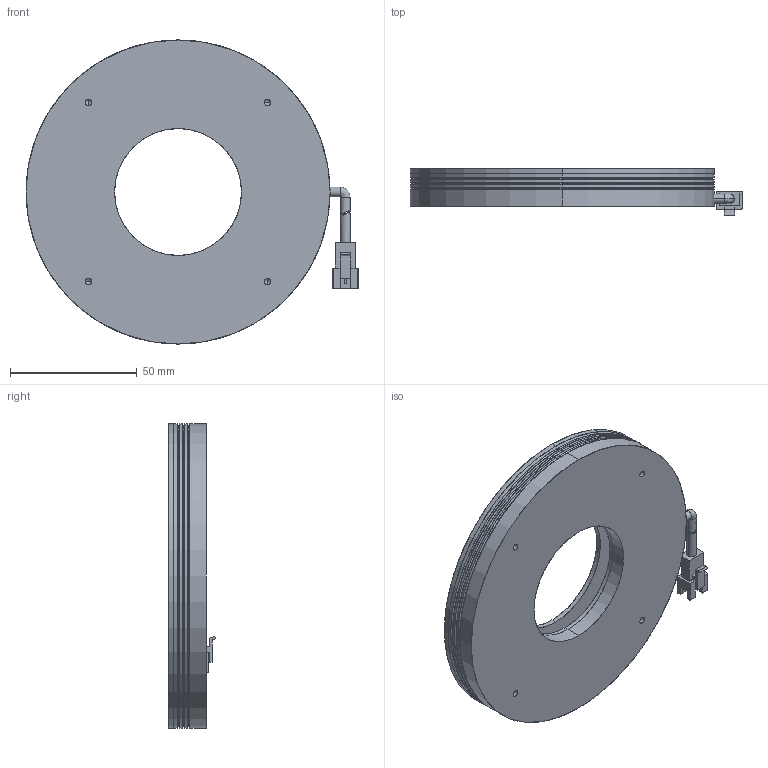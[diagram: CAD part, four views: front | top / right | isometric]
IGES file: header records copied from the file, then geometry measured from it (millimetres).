
Start section: SolidWorks IGES file using analytic representation for surfaces
Global section: file name: E:\SynologyDrive\新款图纸\标准产品\环光\环光00\R12000-50\ED\R12000-50.IGS; native system: SolidWorks 2020; preprocessor: SolidWorks 2020; author: Administrator; date: 200827.093513; units: millimetre
Bounding box: 131 x 18.65 x 120 mm (x, y, z)
Surface area: 66163.1 mm2 (no closed solid volume)
Topology: 0 solids, 0 shells, 421 faces, 4428 edges, 4372 vertices
Faces by surface type: bspline 227, revolution 194
